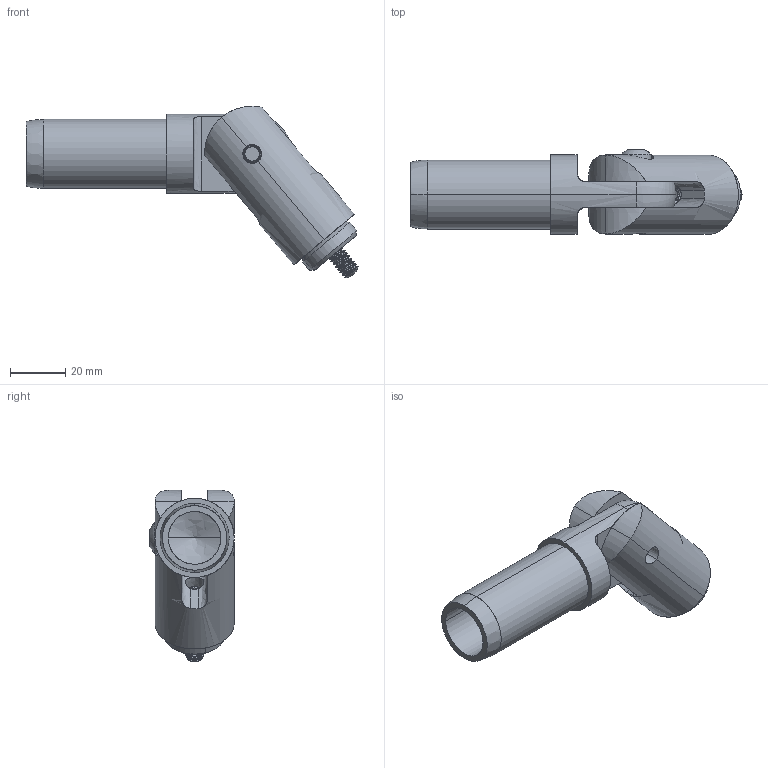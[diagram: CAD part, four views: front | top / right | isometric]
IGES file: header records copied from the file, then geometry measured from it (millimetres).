
Start section: SolidWorks IGES file using analytic representation for surfaces
Global section: file name: \\SERVER3\Design\_New Design Drive Folder List\_Design Vault\AAI\Modular Round Tube Connectors\Solidworks Models\STP Files\12202013\1.000 Inch Modular Connectors\Assemblies\Adjustable Camera Mount for 1 Inch Tube.IGS; native system: SolidWorks 2013; preprocessor: SolidWorks 2013; author: tbraun; date: 140110.114236; units: inch
Bounding box: 119.91 x 30.47 x 61.89 mm (x, y, z)
Surface area: 22849.3 mm2 (no closed solid volume)
Topology: 0 solids, 0 shells, 446 faces, 6043 edges, 6036 vertices
Faces by surface type: revolution 391, bspline 55
